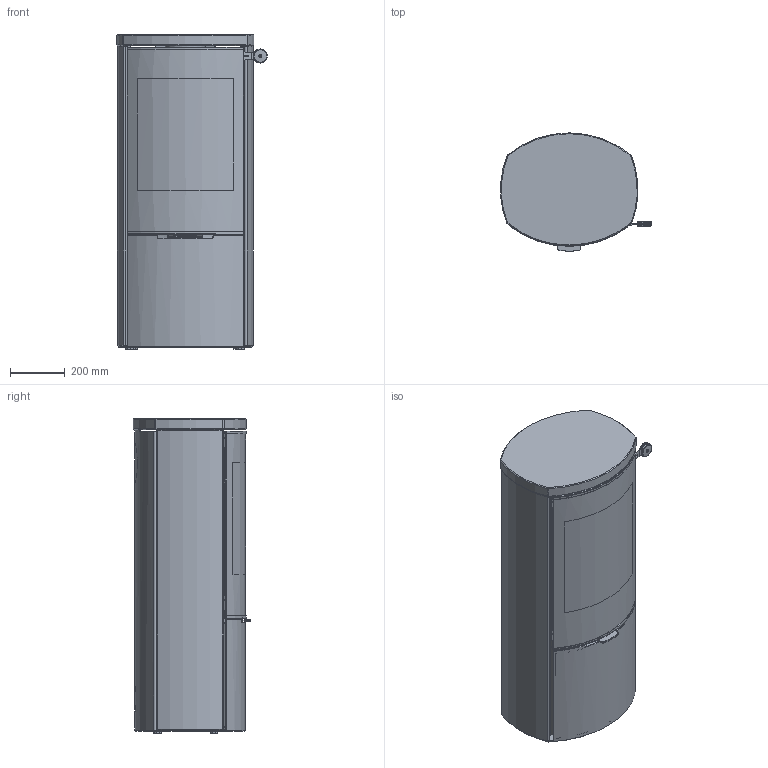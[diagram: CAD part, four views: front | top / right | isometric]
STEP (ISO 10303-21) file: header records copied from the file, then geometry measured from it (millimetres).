
FILE_DESCRIPTION(/* description */ (''),/* implementation_level */ '2;1');
FILE_NAME(/* name */ '14-0301 Caro 110 SST.stp',/* time_stamp */ '2023-11-06T15:33:45+01:00',/* author */ ('ksj'),/* organization */ (''),/* preprocessor_version */ 'ST-DEVELOPER v19.2',/* originating_system */ 'Autodesk Inventor 2023',/* authorisation */ '');
FILE_SCHEMA (('AUTOMOTIVE_DESIGN { 1 0 10303 214 3 1 1 }'));
Products named in the file (1): 14-0301 Caro 110 SST
Bounding box: 549.6 x 429.74 x 1148 mm (x, y, z)
Volume: 37909560.2 mm3; surface area: 8093530.8 mm2
Topology: 49 solids, 49 shells, 2831 faces, 7670 edges, 4934 vertices
Faces by surface type: plane 1837, cylinder 843, bspline 94, cone 30, torus 25, sphere 2
Full cylindrical faces by diameter (mm): 10 x4, 12 x2, 18 x1, 20 x3, 33.8 x2, 160 x1
Entity records: 96026 total; most frequent: CARTESIAN_POINT 20498, ORIENTED_EDGE 15336, DIRECTION 14714, EDGE_CURVE 7668, LINE 5362, VECTOR 5362, VERTEX_POINT 4930, AXIS2_PLACEMENT_3D 4676
